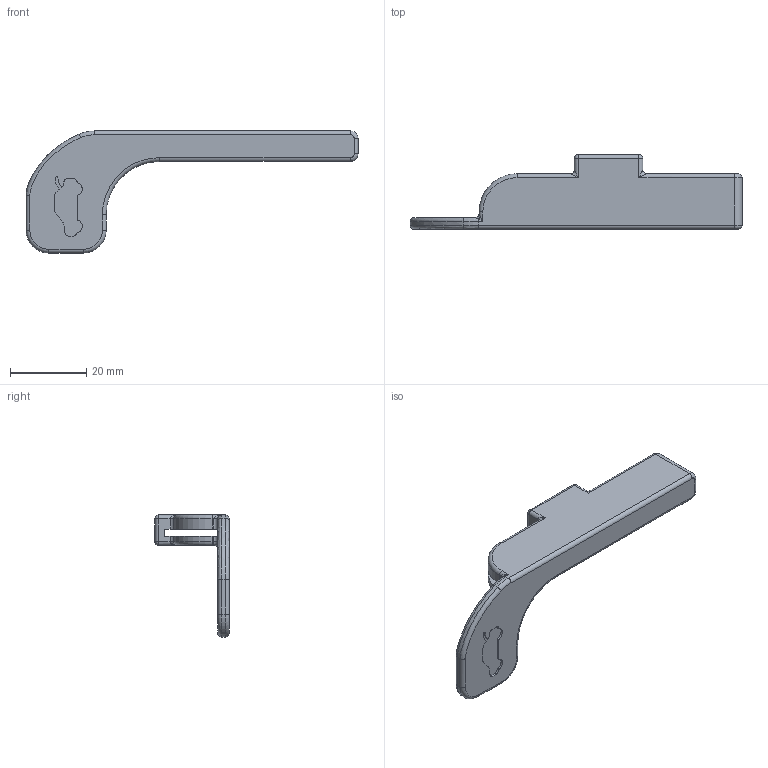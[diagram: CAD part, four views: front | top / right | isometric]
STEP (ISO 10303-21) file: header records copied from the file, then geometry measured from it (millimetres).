
FILE_DESCRIPTION(/* description */ (''),/* implementation_level */ '2;1');
FILE_NAME(/* name */ 'PalancaCajuelaAccent2008 v4.step',/* time_stamp */ '2025-10-02T15:06:14-05:00',/* author */ (''),/* organization */ (''),/* preprocessor_version */ 'ST-DEVELOPER v20.1',/* originating_system */ 'Autodesk Translation Framework v14.17.0.0',/* authorisation */ '');
FILE_SCHEMA (('AUTOMOTIVE_DESIGN { 1 0 10303 214 3 1 1 }'));
Length unit declared in the file: millimetre
Products named in the file (1): PalancaCajuelaAccent2008
Bounding box: 87 x 19.5 x 32 mm (x, y, z)
Volume: 8595.5 mm3; surface area: 6314 mm2
Topology: 1 solids, 1 shells, 139 faces, 360 edges, 216 vertices
Faces by surface type: bspline 53, cylinder 39, plane 34, torus 9, sphere 4
Entity records: 4771 total; most frequent: CARTESIAN_POINT 1754, ORIENTED_EDGE 708, DIRECTION 533, EDGE_CURVE 354, VERTEX_POINT 216, AXIS2_PLACEMENT_3D 181, LINE 171, VECTOR 171
